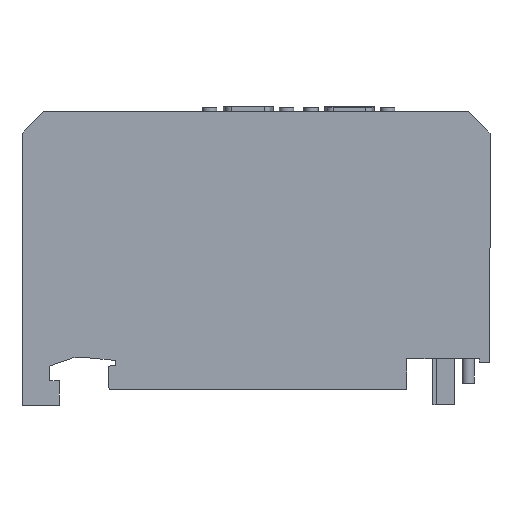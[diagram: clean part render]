
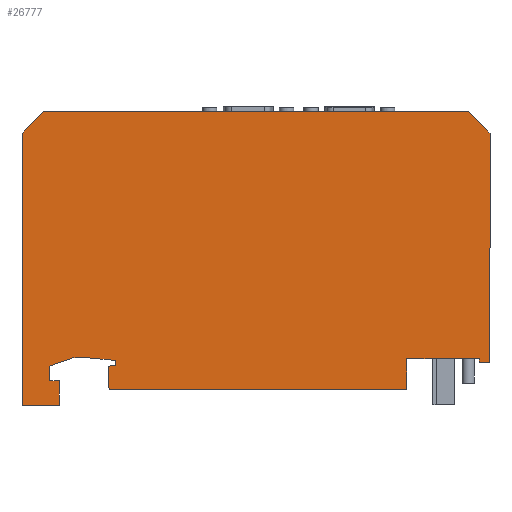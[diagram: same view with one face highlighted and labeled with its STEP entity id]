
A CAD part, left-side view. The second image highlights one B-rep face of the part: STEP entity #26777.
In plain terms, the highlighted planar face has unit normal (-1, 0, 0).
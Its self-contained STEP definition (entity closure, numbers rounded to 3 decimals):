
#1830=FACE_OUTER_BOUND('',#3326,.T.);
#3326=EDGE_LOOP('',(#17005,#17006,#17007,#17008,#17009,#17010,#17011,#17012,
#17013,#17014,#17015,#17016,#17017,#17018,#17019,#17020,#17021,#17022,#17023,
#17024));
#5084=LINE('',#35544,#7829);
#5090=LINE('',#35555,#7835);
#5093=LINE('',#35563,#7838);
#5096=LINE('',#35569,#7841);
#5099=LINE('',#35575,#7844);
#5102=LINE('',#35581,#7847);
#5105=LINE('',#35587,#7850);
#5110=LINE('',#35597,#7855);
#5113=LINE('',#35603,#7858);
#5115=LINE('',#35608,#7860);
#5116=LINE('',#35610,#7861);
#5117=LINE('',#35612,#7862);
#5118=LINE('',#35614,#7863);
#5119=LINE('',#35616,#7864);
#5120=LINE('',#35618,#7865);
#5121=LINE('',#35619,#7866);
#5122=LINE('',#35620,#7867);
#5123=LINE('',#35622,#7868);
#5124=LINE('',#35624,#7869);
#5125=LINE('',#35625,#7870);
#7829=VECTOR('',#29891,10.);
#7835=VECTOR('',#29899,10.);
#7838=VECTOR('',#29904,10.);
#7841=VECTOR('',#29909,10.);
#7844=VECTOR('',#29914,10.);
#7847=VECTOR('',#29919,10.);
#7850=VECTOR('',#29924,10.);
#7855=VECTOR('',#29931,10.);
#7858=VECTOR('',#29936,10.);
#7860=VECTOR('',#29940,10.);
#7861=VECTOR('',#29941,10.);
#7862=VECTOR('',#29942,10.);
#7863=VECTOR('',#29943,10.);
#7864=VECTOR('',#29944,10.);
#7865=VECTOR('',#29945,10.);
#7866=VECTOR('',#29946,10.);
#7867=VECTOR('',#29947,10.);
#7868=VECTOR('',#29948,10.);
#7869=VECTOR('',#29949,10.);
#7870=VECTOR('',#29950,10.);
#10560=VERTEX_POINT('',#35541);
#10561=VERTEX_POINT('',#35543);
#10565=VERTEX_POINT('',#35553);
#10568=VERTEX_POINT('',#35560);
#10569=VERTEX_POINT('',#35562);
#10571=VERTEX_POINT('',#35568);
#10573=VERTEX_POINT('',#35574);
#10575=VERTEX_POINT('',#35580);
#10577=VERTEX_POINT('',#35586);
#10581=VERTEX_POINT('',#35595);
#10583=VERTEX_POINT('',#35601);
#10584=VERTEX_POINT('',#35606);
#10585=VERTEX_POINT('',#35607);
#10586=VERTEX_POINT('',#35609);
#10587=VERTEX_POINT('',#35611);
#10588=VERTEX_POINT('',#35613);
#10589=VERTEX_POINT('',#35615);
#10590=VERTEX_POINT('',#35617);
#10591=VERTEX_POINT('',#35621);
#10592=VERTEX_POINT('',#35623);
#13106=EDGE_CURVE('',#10561,#10560,#5084,.T.);
#13112=EDGE_CURVE('',#10560,#10565,#5090,.T.);
#13115=EDGE_CURVE('',#10569,#10568,#5093,.T.);
#13118=EDGE_CURVE('',#10571,#10569,#5096,.T.);
#13121=EDGE_CURVE('',#10573,#10571,#5099,.T.);
#13124=EDGE_CURVE('',#10575,#10573,#5102,.T.);
#13127=EDGE_CURVE('',#10577,#10575,#5105,.T.);
#13132=EDGE_CURVE('',#10568,#10581,#5110,.T.);
#13135=EDGE_CURVE('',#10581,#10583,#5113,.T.);
#13137=EDGE_CURVE('',#10584,#10585,#5115,.T.);
#13138=EDGE_CURVE('',#10586,#10585,#5116,.T.);
#13139=EDGE_CURVE('',#10587,#10586,#5117,.T.);
#13140=EDGE_CURVE('',#10588,#10587,#5118,.T.);
#13141=EDGE_CURVE('',#10589,#10588,#5119,.T.);
#13142=EDGE_CURVE('',#10590,#10589,#5120,.T.);
#13143=EDGE_CURVE('',#10561,#10590,#5121,.T.);
#13144=EDGE_CURVE('',#10565,#10577,#5122,.T.);
#13145=EDGE_CURVE('',#10583,#10591,#5123,.T.);
#13146=EDGE_CURVE('',#10591,#10592,#5124,.T.);
#13147=EDGE_CURVE('',#10592,#10584,#5125,.T.);
#17005=ORIENTED_EDGE('',*,*,#13137,.T.);
#17006=ORIENTED_EDGE('',*,*,#13138,.F.);
#17007=ORIENTED_EDGE('',*,*,#13139,.F.);
#17008=ORIENTED_EDGE('',*,*,#13140,.F.);
#17009=ORIENTED_EDGE('',*,*,#13141,.F.);
#17010=ORIENTED_EDGE('',*,*,#13142,.F.);
#17011=ORIENTED_EDGE('',*,*,#13143,.F.);
#17012=ORIENTED_EDGE('',*,*,#13106,.T.);
#17013=ORIENTED_EDGE('',*,*,#13112,.T.);
#17014=ORIENTED_EDGE('',*,*,#13144,.T.);
#17015=ORIENTED_EDGE('',*,*,#13127,.T.);
#17016=ORIENTED_EDGE('',*,*,#13124,.T.);
#17017=ORIENTED_EDGE('',*,*,#13121,.T.);
#17018=ORIENTED_EDGE('',*,*,#13118,.T.);
#17019=ORIENTED_EDGE('',*,*,#13115,.T.);
#17020=ORIENTED_EDGE('',*,*,#13132,.T.);
#17021=ORIENTED_EDGE('',*,*,#13135,.T.);
#17022=ORIENTED_EDGE('',*,*,#13145,.T.);
#17023=ORIENTED_EDGE('',*,*,#13146,.T.);
#17024=ORIENTED_EDGE('',*,*,#13147,.T.);
#24386=PLANE('',#28315);
#26777=ADVANCED_FACE('',(#1830),#24386,.F.);
#28315=AXIS2_PLACEMENT_3D('',#35605,#29938,#29939);
#29891=DIRECTION('',(0.,0.,1.));
#29899=DIRECTION('',(0.,1.,0.));
#29904=DIRECTION('',(0.,0.998,-0.06));
#29909=DIRECTION('',(0.,0.,-1.));
#29914=DIRECTION('',(0.,-0.996,-0.094));
#29919=DIRECTION('',(0.,-1.,0.));
#29924=DIRECTION('',(0.,-0.946,0.323));
#29931=DIRECTION('',(0.,-0.035,-0.999));
#29936=DIRECTION('',(0.,-1.,0.));
#29938=DIRECTION('center_axis',(1.,0.,0.));
#29939=DIRECTION('ref_axis',(0.,1.,0.));
#29940=DIRECTION('',(0.,-1.,0.));
#29941=DIRECTION('',(0.,0.,-1.));
#29942=DIRECTION('',(0.,-0.707,-0.707));
#29943=DIRECTION('',(0.,-1.,0.));
#29944=DIRECTION('',(0.,-0.707,0.707));
#29945=DIRECTION('',(0.,0.,1.));
#29946=DIRECTION('',(0.,1.,0.));
#29947=DIRECTION('',(0.,0.044,0.999));
#29948=DIRECTION('',(0.,0.,1.));
#29949=DIRECTION('',(0.,-1.,0.));
#29950=DIRECTION('',(0.,0.,-1.));
#35541=CARTESIAN_POINT('',(-11.55,133.25,-7.2));
#35543=CARTESIAN_POINT('',(-11.55,133.25,-15.2));
#35544=CARTESIAN_POINT('',(-11.55,133.25,12.302));
#35553=CARTESIAN_POINT('',(-11.55,136.35,-7.2));
#35555=CARTESIAN_POINT('',(-11.55,102.75,-7.2));
#35560=CARTESIAN_POINT('',(-11.55,117.295,-2.45));
#35562=CARTESIAN_POINT('',(-11.55,114.95,-2.309));
#35563=CARTESIAN_POINT('',(-11.55,92.282,-0.944));
#35568=CARTESIAN_POINT('',(-11.55,114.95,-0.599));
#35569=CARTESIAN_POINT('',(-11.55,114.95,14.748));
#35574=CARTESIAN_POINT('',(-11.55,123.4,0.2));
#35575=CARTESIAN_POINT('',(-11.55,93.771,-2.601));
#35580=CARTESIAN_POINT('',(-11.55,128.8,0.2));
#35581=CARTESIAN_POINT('',(-11.55,96.275,0.2));
#35586=CARTESIAN_POINT('',(-11.55,136.557,-2.45));
#35587=CARTESIAN_POINT('',(-11.55,97.258,10.975));
#35595=CARTESIAN_POINT('',(-11.55,117.028,-10.1));
#35597=CARTESIAN_POINT('',(-11.55,117.641,7.442));
#35601=CARTESIAN_POINT('',(-11.55,19.98,-10.1));
#35603=CARTESIAN_POINT('',(-11.55,31.025,-10.1));
#35605=CARTESIAN_POINT('Origin',(-11.55,69.15,31.805));
#35606=CARTESIAN_POINT('',(-11.55,-3.62,-1.27));
#35607=CARTESIAN_POINT('',(-11.55,-7.1,-1.27));
#35608=CARTESIAN_POINT('',(-11.55,31.025,-1.27));
#35609=CARTESIAN_POINT('',(-11.55,-7.1,73.5));
#35610=CARTESIAN_POINT('',(-11.55,-7.1,73.5));
#35611=CARTESIAN_POINT('',(-11.55,-0.1,80.5));
#35612=CARTESIAN_POINT('',(-11.55,-0.1,80.5));
#35613=CARTESIAN_POINT('',(-11.55,138.4,80.5));
#35614=CARTESIAN_POINT('',(-11.55,138.4,80.5));
#35615=CARTESIAN_POINT('',(-11.55,145.4,73.5));
#35616=CARTESIAN_POINT('',(-11.55,145.4,73.5));
#35617=CARTESIAN_POINT('',(-11.55,145.4,-15.2));
#35618=CARTESIAN_POINT('',(-11.55,145.4,-15.2));
#35619=CARTESIAN_POINT('',(-11.55,-7.1,-15.2));
#35620=CARTESIAN_POINT('',(-11.55,137.24,13.176));
#35621=CARTESIAN_POINT('',(-11.55,19.98,0.));
#35622=CARTESIAN_POINT('',(-11.55,19.98,15.902));
#35623=CARTESIAN_POINT('',(-11.55,-3.62,0.));
#35624=CARTESIAN_POINT('',(-11.55,32.765,0.));
#35625=CARTESIAN_POINT('',(-11.55,-3.62,10.852));
